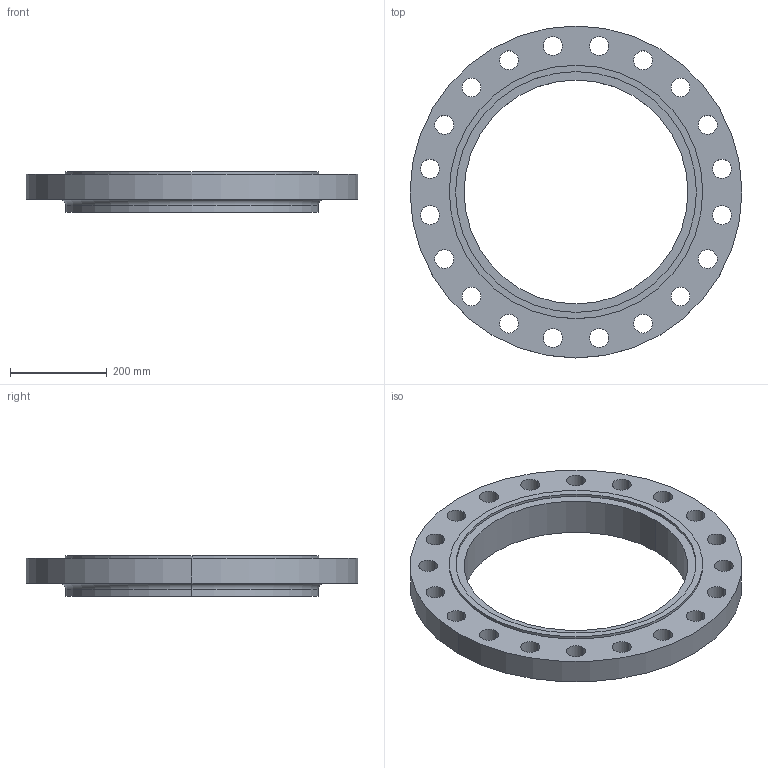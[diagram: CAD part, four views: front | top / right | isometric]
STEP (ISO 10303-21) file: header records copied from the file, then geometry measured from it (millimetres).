
FILE_DESCRIPTION (( 'STEP AP214' ), '1' );
FILE_NAME ('PN40 DN450 Type 12 - Type C Face.STEP', '2018-12-29T02:36:19', ( '' ), ( '' ), 'SwSTEP 2.0', 'SolidWorks 2019', '' );
FILE_SCHEMA (( 'AUTOMOTIVE_DESIGN' ));
Length unit declared in the file: millimetre
Products named in the file (1): PN40 DN450 Type 12 - Type C Face
Bounding box: 685 x 685 x 84 mm (x, y, z)
Volume: 10533146.7 mm3; surface area: 758477.4 mm2
Topology: 1 solids, 1 shells, 57 faces, 154 edges, 102 vertices
Faces by surface type: cylinder 50, plane 5, torus 2
Entity records: 1974 total; most frequent: DIRECTION 374, CARTESIAN_POINT 314, ORIENTED_EDGE 308, AXIS2_PLACEMENT_3D 162, EDGE_CURVE 154, CIRCLE 104, VERTEX_POINT 102, EDGE_LOOP 102
